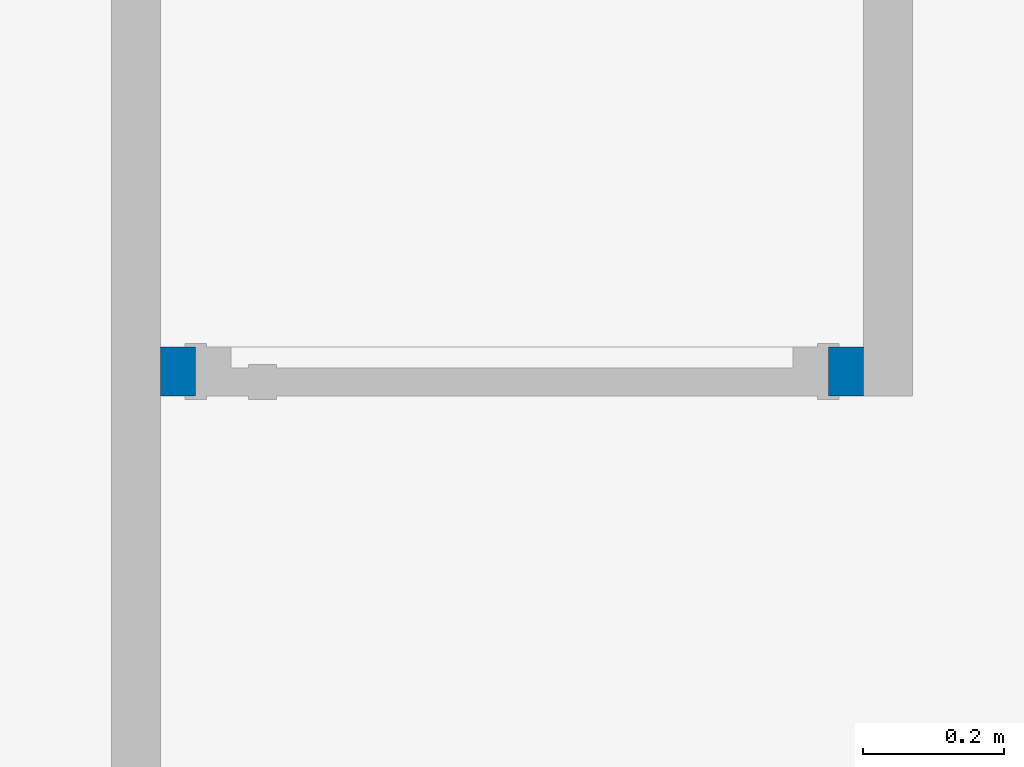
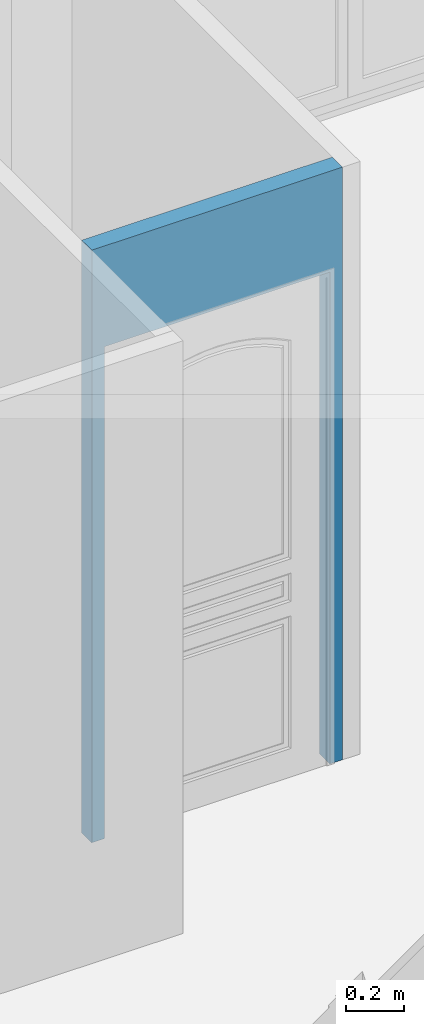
# One storey, part 17 of 23: 1 wall, 1 opening.
"""IFC2X3 building model written with IfcOpenShell, lengths in metres."""

from ifc_helpers import new_model, entity, si_unit, converted_unit, derived_unit, direction, frame, frame_2d, origin, place, context, subcontext, project, spatial, rectangle, extrude, material, layer, layer_set, layer_usage, type_object, element, save


model = new_model("IFC2X3")

# Units and contexts
model_context = context("Model", 3, precision=1e-05, world=origin(), true_north=direction((6.12303176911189e-17, 1.0)))
body_context = subcontext(model_context, "Body", "Model", "MODEL_VIEW")
ifc_project = project(units=[si_unit("LENGTHUNIT", "METRE"), si_unit("AREAUNIT", "SQUARE_METRE"), si_unit("VOLUMEUNIT", "CUBIC_METRE"), converted_unit("PLANEANGLEUNIT", "DEGREE", entity("IfcRatioMeasure", 0.0174532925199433), si_unit("PLANEANGLEUNIT", "RADIAN"), dimensions=[0, 0, 0, 0, 0, 0, 0]), si_unit("MASSUNIT", "GRAM", prefix="KILO"), derived_unit("MASSDENSITYUNIT", [(si_unit("MASSUNIT", "GRAM", prefix="KILO"), 1), (si_unit("LENGTHUNIT", "METRE"), -3)]), si_unit("TIMEUNIT", "SECOND"), si_unit("FREQUENCYUNIT", "HERTZ"), si_unit("THERMODYNAMICTEMPERATUREUNIT", "DEGREE_CELSIUS"), derived_unit("THERMALTRANSMITTANCEUNIT", [(si_unit("MASSUNIT", "GRAM", prefix="KILO"), 1), (si_unit("THERMODYNAMICTEMPERATUREUNIT", "KELVIN"), -1), (si_unit("TIMEUNIT", "SECOND"), -3)]), derived_unit("VOLUMETRICFLOWRATEUNIT", [(si_unit("LENGTHUNIT", "METRE"), 3), (si_unit("TIMEUNIT", "SECOND"), -1)]), si_unit("ELECTRICCURRENTUNIT", "AMPERE"), si_unit("ELECTRICVOLTAGEUNIT", "VOLT"), si_unit("POWERUNIT", "WATT"), si_unit("FORCEUNIT", "NEWTON", prefix="KILO"), si_unit("ILLUMINANCEUNIT", "LUX"), si_unit("LUMINOUSFLUXUNIT", "LUMEN"), si_unit("LUMINOUSINTENSITYUNIT", "CANDELA"), derived_unit("USERDEFINED", [(si_unit("MASSUNIT", "GRAM", prefix="KILO"), -1), (si_unit("LENGTHUNIT", "METRE"), -2), (si_unit("TIMEUNIT", "SECOND"), 3), (si_unit("LUMINOUSFLUXUNIT", "LUMEN"), 1)]), derived_unit("LINEARVELOCITYUNIT", [(si_unit("LENGTHUNIT", "METRE"), 1), (si_unit("TIMEUNIT", "SECOND"), -1)]), si_unit("PRESSUREUNIT", "PASCAL"), derived_unit("USERDEFINED", [(si_unit("LENGTHUNIT", "METRE"), -2), (si_unit("MASSUNIT", "GRAM", prefix="KILO"), 1), (si_unit("TIMEUNIT", "SECOND"), -2)])], contexts=[model_context])

# Site, building, storey
site_placement = place(None, origin())
site = spatial("IfcSite", under=ifc_project, at=site_placement, Name="Default", CompositionType="ELEMENT")
building_placement = place(site_placement, origin())
building = spatial("IfcBuilding", under=site, at=building_placement, CompositionType="ELEMENT")
storey_placement = place(building_placement, origin())
storey = spatial("IfcBuildingStorey", under=building, at=storey_placement, Name="2 - Rez de Chaussée", CompositionType="ELEMENT", Elevation=-1.94916083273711e-14)

# Wall, opening
ifc_material = material(Name="Mur par défaut")
ifc_layer = layer(ifc_material, 0.07)
ifc_layer_set = layer_set([ifc_layer], Name="Mur de base:Cloison distributive Placostil® 72/48 - 1x Placoplatre® BA 13 avec M 48 - EI30 - 33dB - max 3,45m")
ifc_layer_usage = layer_usage(ifc_layer_set, "AXIS2", "NEGATIVE", 0.035)
wall_type = type_object("IfcWallType", Name="Mur de base:Cloison distributive Placostil® 72/48 - 1x Placoplatre® BA 13 avec M 48 - EI30 - 33dB - max 3,45m", PredefinedType="STANDARD", material=ifc_layer_set)
wall_placement = place(storey_placement, frame((-1.48622246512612, 2.96305500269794, 0.0), z_axis=(0.0, 0.0, 1.0), x_axis=(-1.0, 0.0, 0.0)))
wall = element("IfcWallStandardCase", 1, at=wall_placement, inside=storey, type_object=wall_type, material=ifc_layer_usage, Name="Mur de base:Cloison distributive Placostil® 72/48 - 1x Placoplatre® BA 13 avec M 48 - EI30 - 33dB - max 3,45m", ObjectType="Mur de base:Cloison distributive Placostil® 72/48 - 1x Placoplatre® BA 13 avec M 48 - EI30 - 33dB - max 3,45m", context=body_context, shape_type="SweptSolid", body=[
    extrude(rectangle(XDim=0.999999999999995, YDim=0.0700000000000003, at=frame_2d((0.499999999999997, -5.89805981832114e-17), x_axis=(-1.0, 0.0))), origin(), (0.0, 0.0, 1.0), 2.50000000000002),
])
opening_placement = place(wall_placement, frame((0.049999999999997, -0.0349999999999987, 0.0)))
element("IfcOpeningElement", 2, at=opening_placement, cuts=wall, Name="Int. Simple - moulures:PP Moulure cintrée (0.83 m x 2.04 m):1", ObjectType="Opening", context=body_context, shape_type="SweptSolid", body=[
    extrude(rectangle(XDim=2.075, YDim=0.9, at=frame_2d((1.0375, 0.45), x_axis=(1.0, 0.0))), frame((0.0, 0.0, 0.0), z_axis=(0.0, 1.0, 0.0), x_axis=(0.0, 0.0, 1.0)), (0.0, 0.0, 1.0), 0.07),
])

save(model, "model.ifc")
